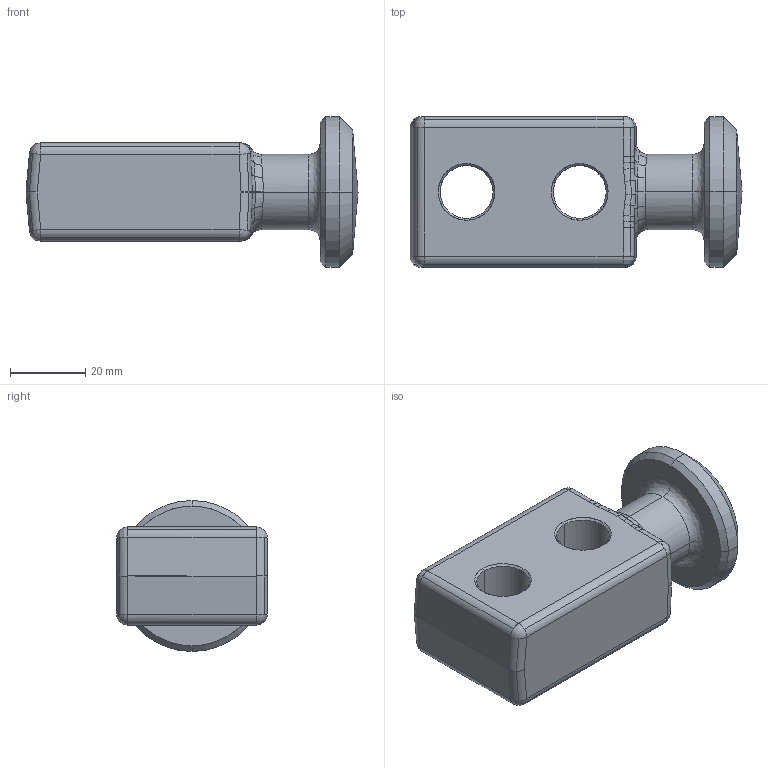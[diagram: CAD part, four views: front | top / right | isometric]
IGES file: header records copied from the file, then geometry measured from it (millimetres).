
Global section: file name: E:\UnigraphicsGraphicData\MISUMI_PRESS-PARTS\IGES\3d_chp20_03550_r00.igs; native system: NX V5.0; preprocessor: UGS NX IGES V5.0; author: MISUMI; date: 20110105.160224; units: millimetre
Bounding box: 88 x 40 x 40 mm (x, y, z)
Surface area: 14397.2 mm2 (no closed solid volume)
Topology: 0 solids, 0 shells, 175 faces, 903 edges, 889 vertices
Faces by surface type: bspline 175
